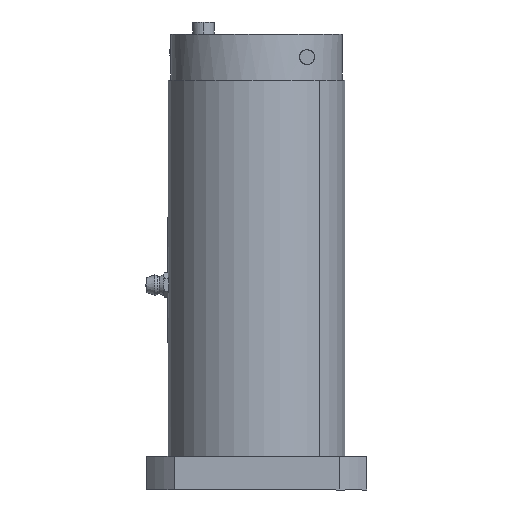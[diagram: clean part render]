
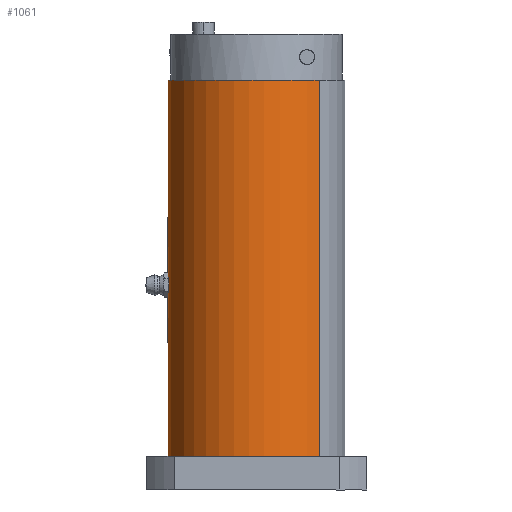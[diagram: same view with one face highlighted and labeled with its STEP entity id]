
A CAD part, left-side view. The second image highlights one B-rep face of the part: STEP entity #1061.
In plain terms, the highlighted cylindrical face has radius 29 mm (diameter 58 mm), a partial arc.
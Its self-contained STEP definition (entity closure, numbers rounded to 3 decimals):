
#47 = EDGE_CURVE ( 'NONE', #3773, #9312, #11456, .T. ) ;
#137 = CARTESIAN_POINT ( 'NONE',  ( -1.263, 32.221, 136.021 ) ) ;
#229 =( BOUNDED_CURVE ( )  B_SPLINE_CURVE ( 3, ( #10327, #7736, #3366, #10435 ),
 .UNSPECIFIED., .F., .F. ) 
 B_SPLINE_CURVE_WITH_KNOTS ( ( 4, 4 ),
 ( 4.591, 4.712 ),
 .UNSPECIFIED. ) 
 CURVE ( )  GEOMETRIC_REPRESENTATION_ITEM ( )  RATIONAL_B_SPLINE_CURVE ( ( 1., 0.999, 0.999, 1. ) ) 
 REPRESENTATION_ITEM ( '' )  );
#491 = CARTESIAN_POINT ( 'NONE',  ( 15.743, 23.939, 78. ) ) ;
#576 = LINE ( 'NONE', #6815, #3622 ) ;
#817 = CARTESIAN_POINT ( 'NONE',  ( -25.27, -17.074, 78. ) ) ;
#857 = CARTESIAN_POINT ( 'NONE',  ( -4.763, 32.433, 138.041 ) ) ;
#943 = CARTESIAN_POINT ( 'NONE',  ( -4.763, 32.433, 138.041 ) ) ;
#1061 = ADVANCED_FACE ( 'NONE', ( #4943, #6519 ), #4889, .T. ) ;
#1096 = VECTOR ( 'NONE', #6996, 1000. ) ;
#1178 = ORIENTED_EDGE ( 'NONE', *, *, #8063, .T. ) ;
#1228 = ORIENTED_EDGE ( 'NONE', *, *, #1912, .T. ) ;
#1357 =( BOUNDED_CURVE ( )  B_SPLINE_CURVE ( 3, ( #5956, #2386, #6886, #3230 ),
 .UNSPECIFIED., .F., .F. ) 
 B_SPLINE_CURVE_WITH_KNOTS ( ( 4, 4 ),
 ( 1.571, 1.692 ),
 .UNSPECIFIED. ) 
 CURVE ( )  GEOMETRIC_REPRESENTATION_ITEM ( )  RATIONAL_B_SPLINE_CURVE ( ( 1., 0.999, 0.999, 1. ) ) 
 REPRESENTATION_ITEM ( '' )  );
#1387 = LINE ( 'NONE', #4069, #1096 ) ;
#1428 = EDGE_CURVE ( 'NONE', #1508, #5413, #229, .T. ) ;
#1474 = CIRCLE ( 'NONE', #9678, 29. ) ;
#1508 = VERTEX_POINT ( 'NONE', #3876 ) ;
#1606 = EDGE_LOOP ( 'NONE', ( #5736, #6967, #10290, #1228, #5992, #1830 ) ) ;
#1701 = AXIS2_PLACEMENT_3D ( 'NONE', #9264, #5765, #8448 ) ;
#1710 = VERTEX_POINT ( 'NONE', #491 ) ;
#1830 = ORIENTED_EDGE ( 'NONE', *, *, #5525, .T. ) ;
#1857 = DIRECTION ( 'NONE',  ( 0.707, 0.707, 0. ) ) ;
#1912 = EDGE_CURVE ( 'NONE', #8658, #1508, #576, .T. ) ;
#2323 = DIRECTION ( 'NONE',  ( 0., 0., -1. ) ) ;
#2386 = CARTESIAN_POINT ( 'NONE',  ( -5.934, 32.433, 137.366 ) ) ;
#2464 = CARTESIAN_POINT ( 'NONE',  ( 15.743, 23.939, 201. ) ) ;
#3182 = CARTESIAN_POINT ( 'NONE',  ( 15.743, 23.939, 139.5 ) ) ;
#3230 = CARTESIAN_POINT ( 'NONE',  ( -8.263, 32.221, 136.021 ) ) ;
#3276 = CARTESIAN_POINT ( 'NONE',  ( -1.263, 32.221, 131.979 ) ) ;
#3366 = CARTESIAN_POINT ( 'NONE',  ( -5.934, 32.433, 130.634 ) ) ;
#3393 = CARTESIAN_POINT ( 'NONE',  ( -2.425, 32.362, 131.309 ) ) ;
#3622 = VECTOR ( 'NONE', #2323, 1000. ) ;
#3773 = VERTEX_POINT ( 'NONE', #11239 ) ;
#3876 = CARTESIAN_POINT ( 'NONE',  ( -8.263, 32.221, 131.979 ) ) ;
#4069 = CARTESIAN_POINT ( 'NONE',  ( -25.27, -17.074, 139.5 ) ) ;
#4168 = LINE ( 'NONE', #3182, #10451 ) ;
#4260 = CIRCLE ( 'NONE', #4628, 29. ) ;
#4628 = AXIS2_PLACEMENT_3D ( 'NONE', #11529, #8804, #1857 ) ;
#4836 = EDGE_CURVE ( 'NONE', #9312, #6213, #11361, .T. ) ;
#4889 = CYLINDRICAL_SURFACE ( 'NONE', #1701, 29. ) ;
#4916 = ORIENTED_EDGE ( 'NONE', *, *, #7179, .F. ) ;
#4943 = FACE_OUTER_BOUND ( 'NONE', #8131, .T. ) ;
#5067 = DIRECTION ( 'NONE',  ( 0., 0., 1. ) ) ;
#5112 = CARTESIAN_POINT ( 'NONE',  ( -3.593, 32.433, 137.366 ) ) ;
#5383 = CARTESIAN_POINT ( 'NONE',  ( -8.263, 32.221, 136.021 ) ) ;
#5413 = VERTEX_POINT ( 'NONE', #7762 ) ;
#5525 = EDGE_CURVE ( 'NONE', #5413, #3773, #6566, .T. ) ;
#5736 = ORIENTED_EDGE ( 'NONE', *, *, #47, .T. ) ;
#5765 = DIRECTION ( 'NONE',  ( 0., 0., -1. ) ) ;
#5956 = CARTESIAN_POINT ( 'NONE',  ( -4.763, 32.433, 138.041 ) ) ;
#5992 = ORIENTED_EDGE ( 'NONE', *, *, #1428, .T. ) ;
#6083 = VERTEX_POINT ( 'NONE', #2464 ) ;
#6213 = VERTEX_POINT ( 'NONE', #943 ) ;
#6519 = FACE_BOUND ( 'NONE', #1606, .T. ) ;
#6566 =( BOUNDED_CURVE ( )  B_SPLINE_CURVE ( 3, ( #7813, #8801, #3393, #3276 ),
 .UNSPECIFIED., .F., .F. ) 
 B_SPLINE_CURVE_WITH_KNOTS ( ( 4, 4 ),
 ( 4.712, 4.833 ),
 .UNSPECIFIED. ) 
 CURVE ( )  GEOMETRIC_REPRESENTATION_ITEM ( )  RATIONAL_B_SPLINE_CURVE ( ( 1., 0.999, 0.999, 1. ) ) 
 REPRESENTATION_ITEM ( '' )  );
#6815 = CARTESIAN_POINT ( 'NONE',  ( -8.263, 32.221, 136.021 ) ) ;
#6886 = CARTESIAN_POINT ( 'NONE',  ( -7.102, 32.362, 136.691 ) ) ;
#6967 = ORIENTED_EDGE ( 'NONE', *, *, #4836, .T. ) ;
#6996 = DIRECTION ( 'NONE',  ( 0., 0., -1. ) ) ;
#7047 = EDGE_CURVE ( 'NONE', #6213, #8658, #1357, .T. ) ;
#7179 = EDGE_CURVE ( 'NONE', #7185, #1710, #4260, .T. ) ;
#7185 = VERTEX_POINT ( 'NONE', #817 ) ;
#7635 = ORIENTED_EDGE ( 'NONE', *, *, #8151, .F. ) ;
#7729 = DIRECTION ( 'NONE',  ( 0., 0., -1. ) ) ;
#7736 = CARTESIAN_POINT ( 'NONE',  ( -7.102, 32.362, 131.309 ) ) ;
#7762 = CARTESIAN_POINT ( 'NONE',  ( -4.763, 32.433, 129.959 ) ) ;
#7813 = CARTESIAN_POINT ( 'NONE',  ( -4.763, 32.433, 129.959 ) ) ;
#8063 = EDGE_CURVE ( 'NONE', #9889, #6083, #1474, .T. ) ;
#8131 = EDGE_LOOP ( 'NONE', ( #7635, #1178, #8194, #4916 ) ) ;
#8151 = EDGE_CURVE ( 'NONE', #9889, #7185, #1387, .T. ) ;
#8194 = ORIENTED_EDGE ( 'NONE', *, *, #10775, .T. ) ;
#8226 = CARTESIAN_POINT ( 'NONE',  ( -4.763, 3.433, 201. ) ) ;
#8448 = DIRECTION ( 'NONE',  ( 0.707, 0.707, 0. ) ) ;
#8658 = VERTEX_POINT ( 'NONE', #5383 ) ;
#8801 = CARTESIAN_POINT ( 'NONE',  ( -3.593, 32.433, 130.634 ) ) ;
#8804 = DIRECTION ( 'NONE',  ( 0., 0., -1. ) ) ;
#9264 = CARTESIAN_POINT ( 'NONE',  ( -4.763, 3.433, 139.5 ) ) ;
#9312 = VERTEX_POINT ( 'NONE', #137 ) ;
#9673 = CARTESIAN_POINT ( 'NONE',  ( -1.263, 32.221, 136.021 ) ) ;
#9678 = AXIS2_PLACEMENT_3D ( 'NONE', #8226, #10979, #10285 ) ;
#9802 = CARTESIAN_POINT ( 'NONE',  ( -25.27, -17.074, 201. ) ) ;
#9889 = VERTEX_POINT ( 'NONE', #9802 ) ;
#10285 = DIRECTION ( 'NONE',  ( 0.707, 0.707, 0. ) ) ;
#10290 = ORIENTED_EDGE ( 'NONE', *, *, #7047, .T. ) ;
#10327 = CARTESIAN_POINT ( 'NONE',  ( -8.263, 32.221, 131.979 ) ) ;
#10435 = CARTESIAN_POINT ( 'NONE',  ( -4.763, 32.433, 129.959 ) ) ;
#10451 = VECTOR ( 'NONE', #7729, 1000. ) ;
#10476 = VECTOR ( 'NONE', #5067, 1000. ) ;
#10775 = EDGE_CURVE ( 'NONE', #6083, #1710, #4168, .T. ) ;
#10979 = DIRECTION ( 'NONE',  ( 0., 0., -1. ) ) ;
#11239 = CARTESIAN_POINT ( 'NONE',  ( -1.263, 32.221, 131.979 ) ) ;
#11361 =( BOUNDED_CURVE ( )  B_SPLINE_CURVE ( 3, ( #9673, #11510, #5112, #857 ),
 .UNSPECIFIED., .F., .F. ) 
 B_SPLINE_CURVE_WITH_KNOTS ( ( 4, 4 ),
 ( 1.45, 1.571 ),
 .UNSPECIFIED. ) 
 CURVE ( )  GEOMETRIC_REPRESENTATION_ITEM ( )  RATIONAL_B_SPLINE_CURVE ( ( 1., 0.999, 0.999, 1. ) ) 
 REPRESENTATION_ITEM ( '' )  );
#11390 = CARTESIAN_POINT ( 'NONE',  ( -1.263, 32.221, 131.979 ) ) ;
#11456 = LINE ( 'NONE', #11390, #10476 ) ;
#11510 = CARTESIAN_POINT ( 'NONE',  ( -2.425, 32.362, 136.691 ) ) ;
#11529 = CARTESIAN_POINT ( 'NONE',  ( -4.763, 3.433, 78. ) ) ;
